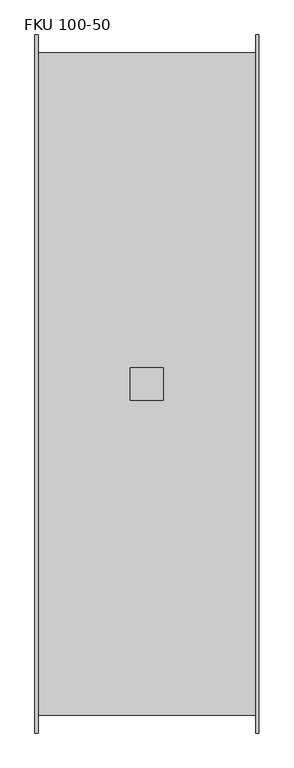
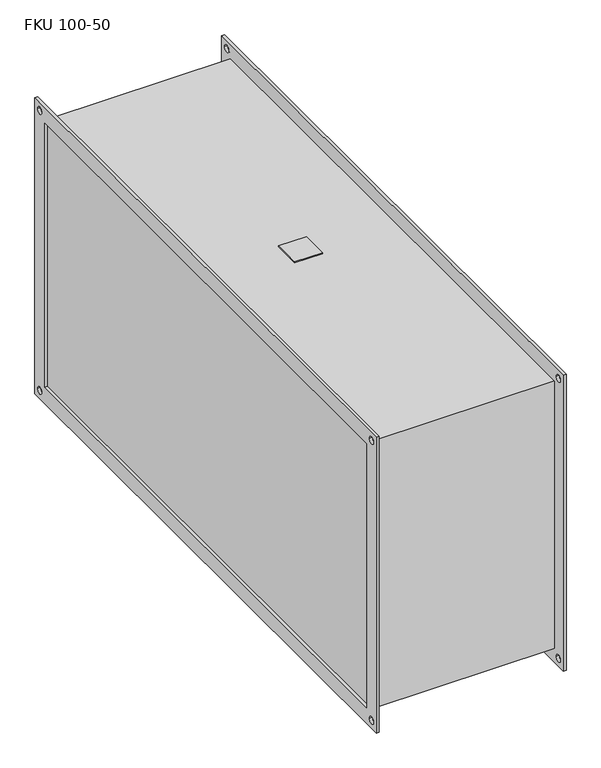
"""IFC4 building model written with IfcOpenShell, lengths in millimetres: damper geometry, KORF_Фильтр_Карманный_Укороченный_FKU : FKU 100-50."""

from ifc_helpers import new_model, si_unit, point, frame, frame_2d, origin, place, context, project, spatial, polyline, circle_curve, trimmed, segment, composite_curve, outline, extrude, source, transform, mapped, element, save


def fku_100_50_21f81071(model_context):
    return source(origin(), model_context, "Body", "SweptSolid", [
        extrude(outline(polyline([(145.0, -25.0), (145.0, 25.0), (195.0, 25.0), (195.0, -25.0), (145.0, -25.0)])), frame((0.0, 0.0, 253.0), z_axis=(0.0, 0.0, 1.0), x_axis=(1.0, 0.0, 0.0)), (0.0, 0.0, 1.0), 2.0),
        extrude(outline(polyline([(-530.0, 280.0), (530.0, 280.0), (530.0, -280.0), (-530.0, -280.0), (-530.0, 280.0)]), holes=[polyline([(-500.0, 250.0), (-500.0, -250.0), (500.0, -250.0), (500.0, 250.0), (-500.0, 250.0)]), composite_curve([segment(trimmed(circle_curve(frame_2d((515.0, 265.0)), 6.5), [point((508.5, 265.0))], [point((521.5, 265.0))], True, "CARTESIAN"), True, "CONTINUOUS"), segment(trimmed(circle_curve(frame_2d((515.0, 265.0)), 6.5), [point((521.5, 265.0))], [point((508.5, 265.0))], True, "CARTESIAN"), True, "CONTINUOUS")], self_intersect=False), composite_curve([segment(trimmed(circle_curve(frame_2d((-515.0, 265.0)), 6.5), [point((-521.5, 265.0))], [point((-508.5, 265.0))], True, "CARTESIAN"), True, "CONTINUOUS"), segment(trimmed(circle_curve(frame_2d((-515.0, 265.0)), 6.5), [point((-508.5, 265.0))], [point((-521.5, 265.0))], True, "CARTESIAN"), True, "CONTINUOUS")], self_intersect=False), composite_curve([segment(trimmed(circle_curve(frame_2d((-515.0, -265.0)), 6.5), [point((-521.5, -265.0))], [point((-508.5, -265.0))], True, "CARTESIAN"), True, "CONTINUOUS"), segment(trimmed(circle_curve(frame_2d((-515.0, -265.0)), 6.5), [point((-508.5, -265.0))], [point((-521.5, -265.0))], True, "CARTESIAN"), True, "CONTINUOUS")], self_intersect=False), composite_curve([segment(trimmed(circle_curve(frame_2d((515.0, -265.0)), 6.5), [point((508.5, -265.0))], [point((521.5, -265.0))], True, "CARTESIAN"), True, "CONTINUOUS"), segment(trimmed(circle_curve(frame_2d((515.0, -265.0)), 6.5), [point((521.5, -265.0))], [point((508.5, -265.0))], True, "CARTESIAN"), True, "CONTINUOUS")], self_intersect=False)]), frame((335.0, 0.0, 0.0), z_axis=(1.0, 0.0, 0.0), x_axis=(0.0, 1.0, 0.0)), (0.0, 0.0, 1.0), 5.0),
        extrude(outline(polyline([(-530.0, 280.0), (530.0, 280.0), (530.0, -280.0), (-530.0, -280.0), (-530.0, 280.0)]), holes=[polyline([(-500.0, 250.0), (-500.0, -250.0), (500.0, -250.0), (500.0, 250.0), (-500.0, 250.0)]), composite_curve([segment(trimmed(circle_curve(frame_2d((515.0, 265.0)), 6.5), [point((508.5, 265.0))], [point((521.5, 265.0))], True, "CARTESIAN"), True, "CONTINUOUS"), segment(trimmed(circle_curve(frame_2d((515.0, 265.0)), 6.5), [point((521.5, 265.0))], [point((508.5, 265.0))], True, "CARTESIAN"), True, "CONTINUOUS")], self_intersect=False), composite_curve([segment(trimmed(circle_curve(frame_2d((-515.0, 265.0)), 6.5), [point((-521.5, 265.0))], [point((-508.5, 265.0))], True, "CARTESIAN"), True, "CONTINUOUS"), segment(trimmed(circle_curve(frame_2d((-515.0, 265.0)), 6.5), [point((-508.5, 265.0))], [point((-521.5, 265.0))], True, "CARTESIAN"), True, "CONTINUOUS")], self_intersect=False), composite_curve([segment(trimmed(circle_curve(frame_2d((-515.0, -265.0)), 6.5), [point((-521.5, -265.0))], [point((-508.5, -265.0))], True, "CARTESIAN"), True, "CONTINUOUS"), segment(trimmed(circle_curve(frame_2d((-515.0, -265.0)), 6.5), [point((-508.5, -265.0))], [point((-521.5, -265.0))], True, "CARTESIAN"), True, "CONTINUOUS")], self_intersect=False), composite_curve([segment(trimmed(circle_curve(frame_2d((515.0, -265.0)), 6.5), [point((508.5, -265.0))], [point((521.5, -265.0))], True, "CARTESIAN"), True, "CONTINUOUS"), segment(trimmed(circle_curve(frame_2d((515.0, -265.0)), 6.5), [point((521.5, -265.0))], [point((508.5, -265.0))], True, "CARTESIAN"), True, "CONTINUOUS")], self_intersect=False)]), frame((0.0, 0.0, 0.0), z_axis=(1.0, 0.0, 0.0), x_axis=(0.0, 1.0, 0.0)), (0.0, 0.0, 1.0), 5.0),
        extrude(outline(polyline([(335.0, 503.0), (335.0, -503.0), (5.0, -503.0), (5.0, 503.0), (335.0, 503.0)])), frame((0.0, 0.0, -253.0), z_axis=(0.0, 0.0, 1.0), x_axis=(1.0, 0.0, 0.0)), (0.0, 0.0, 1.0), 506.0),
    ])


if __name__ == "__main__":
    model = new_model("IFC4")
    model_context = context("Model", 3, world=origin())
    ifc_project = project(units=[si_unit("LENGTHUNIT", "METRE", prefix="MILLI")], contexts=[model_context])
    site = spatial("IfcSite", under=ifc_project)
    building = spatial("IfcBuilding", under=site)
    placement = place(None, origin())
    fku_100_50_shape = fku_100_50_21f81071(model_context)
    element("IfcDamper", 1, ObjectType="KORF_Фильтр_Карманный_Укороченный_FKU : FKU 100-50", at=placement, inside=building, context=model_context, shape_type="MappedRepresentation", body=[
        mapped(fku_100_50_shape, transform((0.0, 0.0, 0.0), x_axis=(1.0, 0.0, 0.0), y_axis=(0.0, 1.0, 0.0), z_axis=(0.0, 0.0, 1.0))),
    ])
    save(model, "model.ifc")
